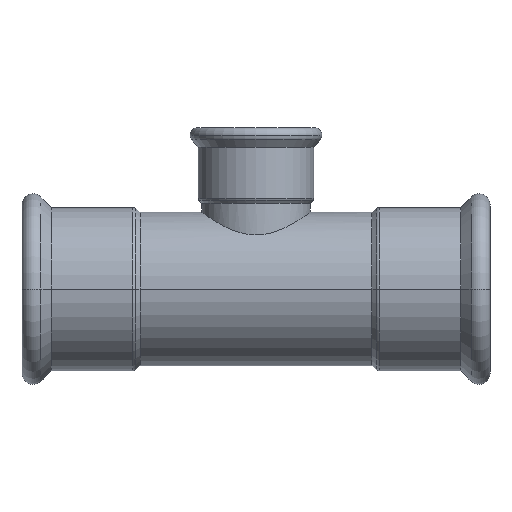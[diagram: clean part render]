
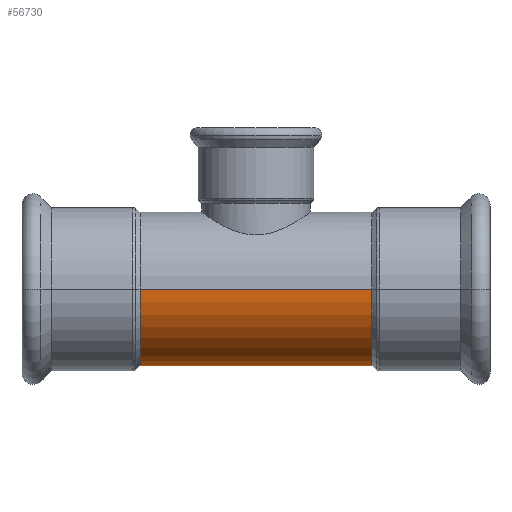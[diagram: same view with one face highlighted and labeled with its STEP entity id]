
A CAD part, front view. The second image highlights one B-rep face of the part: STEP entity #56730.
In plain terms, the highlighted cylindrical face has radius 38.05 mm (diameter 76.1 mm), a partial arc.
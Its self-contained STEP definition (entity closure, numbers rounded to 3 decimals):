
#1870=CARTESIAN_POINT('',(87.844,151.195,0.));
#1880=DIRECTION('',(1.,0.,0.));
#1890=DIRECTION('',(0.,0.,-1.));
#1900=AXIS2_PLACEMENT_3D('',#1870,#1880,#1890);
#1910=CYLINDRICAL_SURFACE('',#1900,38.05);
#20870=CARTESIAN_POINT('',(87.844,151.195,-38.05));
#20880=DIRECTION('',(1.,0.,0.));
#20890=VECTOR('',#20880,1.);
#20900=LINE('',#20870,#20890);
#20910=CARTESIAN_POINT('',(-27.156,151.195,-38.05));
#20920=VERTEX_POINT('',#20910);
#20930=CARTESIAN_POINT('',(87.844,151.195,-38.05));
#20940=VERTEX_POINT('',#20930);
#20950=EDGE_CURVE('',#20920,#20940,#20900,.T.);
#20970=CARTESIAN_POINT('',(87.844,151.195,0.));
#20980=DIRECTION('',(1.,0.,0.));
#20990=DIRECTION('',(0.,0.,-1.));
#21000=AXIS2_PLACEMENT_3D('',#20970,#20980,#20990);
#21010=CIRCLE('',#21000,38.05);
#21020=CARTESIAN_POINT('',(87.844,151.195,38.05));
#21030=VERTEX_POINT('',#21020);
#21060=CARTESIAN_POINT('',(87.844,151.195,38.05));
#21070=DIRECTION('',(1.,0.,0.));
#21080=VECTOR('',#21070,1.);
#21090=LINE('',#21060,#21080);
#21100=CARTESIAN_POINT('',(-27.156,151.195,38.05));
#21110=VERTEX_POINT('',#21100);
#21120=EDGE_CURVE('',#21110,#21030,#21090,.T.);
#21140=CARTESIAN_POINT('',(-27.156,151.195,0.));
#21150=DIRECTION('',(1.,0.,0.));
#21160=DIRECTION('',(0.,0.,-1.));
#21170=AXIS2_PLACEMENT_3D('',#21140,#21150,#21160);
#21180=CIRCLE('',#21170,38.05);
#31490=EDGE_CURVE('',#21030,#20940,#21010,.T.);
#55850=EDGE_CURVE('',#21110,#20920,#21180,.T.);
#56670=ORIENTED_EDGE('',*,*,#20950,.T.);
#56680=ORIENTED_EDGE('',*,*,#55850,.T.);
#56690=ORIENTED_EDGE('',*,*,#21120,.F.);
#56700=ORIENTED_EDGE('',*,*,#31490,.F.);
#56710=EDGE_LOOP('',(#56700,#56690,#56680,#56670));
#56720=FACE_OUTER_BOUND('',#56710,.T.);
#56730=ADVANCED_FACE('',(#56720),#1910,.T.);
